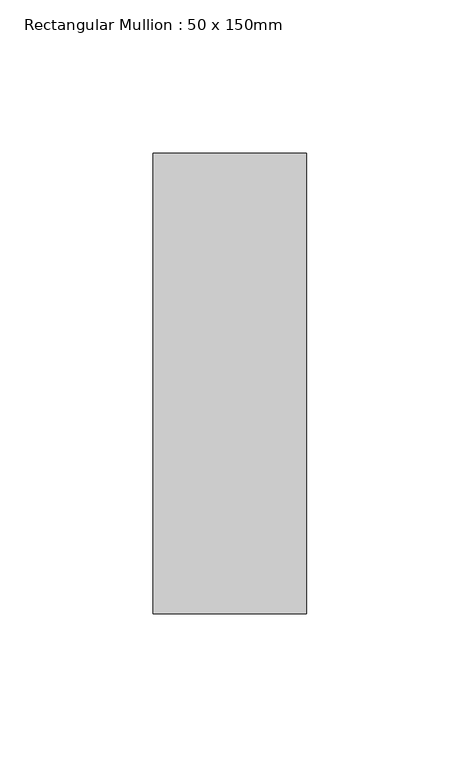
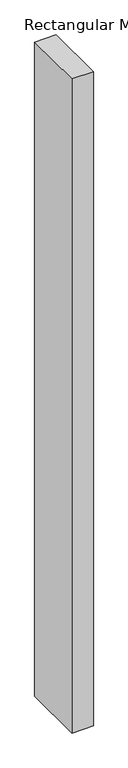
"""IFC4 building model written with IfcOpenShell, lengths in millimetres: member geometry, Rectangular Mullion : 50 x 150mm."""

from ifc_helpers import new_model, si_unit, frame, origin, place, context, project, spatial, polyline, outline, extrude, source, transform, mapped, element, save


def rectangular_mullion_50_x_150mm_24157160(model_context):
    return source(origin(), model_context, "Body", "SweptSolid", [
        extrude(outline(polyline([(0.0, 75.0), (0.0, -75.0), (-50.0, -75.0), (-50.0, 75.0), (0.0, 75.0)])), frame((0.0, 0.0, -1612.0), z_axis=(0.0, 0.0, 1.0), x_axis=(1.0, 0.0, 0.0)), (0.0, 0.0, 1.0), 1612.0),
    ])


if __name__ == "__main__":
    model = new_model("IFC4")
    model_context = context("Model", 3, world=origin())
    ifc_project = project(units=[si_unit("LENGTHUNIT", "METRE", prefix="MILLI")], contexts=[model_context])
    site = spatial("IfcSite", under=ifc_project)
    building = spatial("IfcBuilding", under=site)
    placement = place(None, origin())
    rectangular_mullion_50_x_150mm_shape = rectangular_mullion_50_x_150mm_24157160(model_context)
    element("IfcMember", 1, ObjectType="Rectangular Mullion : 50 x 150mm", at=placement, inside=building, context=model_context, shape_type="MappedRepresentation", body=[
        mapped(rectangular_mullion_50_x_150mm_shape, transform((0.0, 0.0, 0.0), x_axis=(1.0, 0.0, 0.0), y_axis=(0.0, 1.0, 0.0), z_axis=(0.0, 0.0, 1.0))),
    ])
    save(model, "model.ifc")
